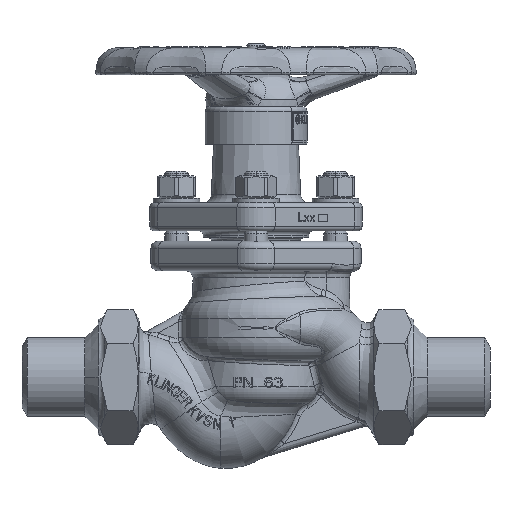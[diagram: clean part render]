
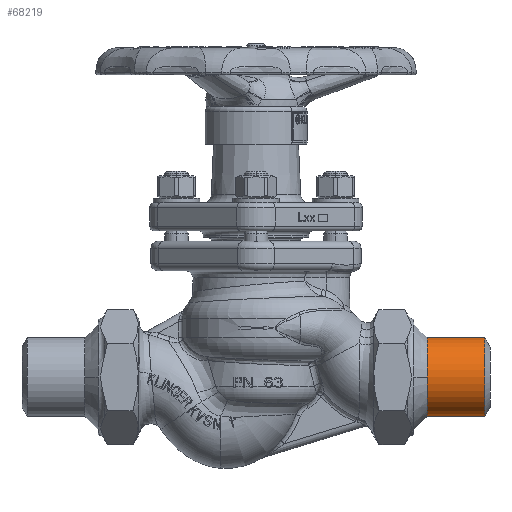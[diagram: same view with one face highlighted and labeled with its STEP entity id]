
A CAD part, front view. The second image highlights one B-rep face of the part: STEP entity #68219.
In plain terms, the highlighted cylindrical face has radius 16.85 mm (diameter 33.7 mm), a partial arc.
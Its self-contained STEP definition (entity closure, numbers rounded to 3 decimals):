
#12739=CARTESIAN_POINT('',(73.157,0.,0.));
#12740=DIRECTION('',(-1.,0.,0.));
#12741=DIRECTION('',(0.,0.,-1.));
#12742=AXIS2_PLACEMENT_3D('',#12739,#12740,#12741);
#12744=CARTESIAN_POINT('',(73.157,0.,0.));
#12745=DIRECTION('',(-1.,0.,0.));
#12746=DIRECTION('',(0.,-1.,0.));
#12747=AXIS2_PLACEMENT_3D('',#12744,#12745,#12746);
#12749=DIRECTION('',(-1.,0.,0.));
#12750=VECTOR('',#12749,24.534);
#12751=CARTESIAN_POINT('',(97.691,0.,16.85));
#12752=LINE('',#12751,#12750);
#12753=CARTESIAN_POINT('',(97.691,0.,0.));
#12754=DIRECTION('',(-1.,0.,0.));
#12755=DIRECTION('',(0.,0.,-1.));
#12756=AXIS2_PLACEMENT_3D('',#12753,#12754,#12755);
#12758=DIRECTION('',(-1.,0.,0.));
#12759=VECTOR('',#12758,24.534);
#12760=CARTESIAN_POINT('',(97.691,0.,-16.85));
#12761=LINE('',#12760,#12759);
#37164=CARTESIAN_POINT('',(97.691,0.,16.85));
#37165=CARTESIAN_POINT('',(97.691,0.,-16.85));
#37166=VERTEX_POINT('',#37164);
#37167=VERTEX_POINT('',#37165);
#37193=CARTESIAN_POINT('',(73.157,0.,-16.85));
#37195=VERTEX_POINT('',#37193);
#37196=CARTESIAN_POINT('',(73.157,0.,16.85));
#37197=VERTEX_POINT('',#37196);
#37198=CARTESIAN_POINT('',(73.157,-16.85,0.));
#37199=VERTEX_POINT('',#37198);
#68206=CARTESIAN_POINT('',(102.475,0.,0.));
#68207=DIRECTION('',(-1.,0.,0.));
#68208=DIRECTION('',(0.,0.,1.));
#68209=AXIS2_PLACEMENT_3D('',#68206,#68207,#68208);
#68210=CYLINDRICAL_SURFACE('',#68209,16.85);
#68211=ORIENTED_EDGE('',*,*,#68166,.T.);
#68212=ORIENTED_EDGE('',*,*,#68184,.T.);
#68213=ORIENTED_EDGE('',*,*,#68200,.F.);
#68215=ORIENTED_EDGE('',*,*,#68214,.F.);
#68216=ORIENTED_EDGE('',*,*,#68196,.T.);
#68217=EDGE_LOOP('',(#68211,#68212,#68213,#68215,#68216));
#68218=FACE_OUTER_BOUND('',#68217,.F.);
#68219=ADVANCED_FACE('',(#68218),#68210,.T.);
#12743=CIRCLE('',#12742,16.85);
#12748=CIRCLE('',#12747,16.85);
#12757=CIRCLE('',#12756,16.85);
#68166=EDGE_CURVE('',#37195,#37199,#12743,.T.);
#68184=EDGE_CURVE('',#37199,#37197,#12748,.T.);
#68196=EDGE_CURVE('',#37167,#37195,#12761,.T.);
#68200=EDGE_CURVE('',#37166,#37197,#12752,.T.);
#68214=EDGE_CURVE('',#37167,#37166,#12757,.T.);
